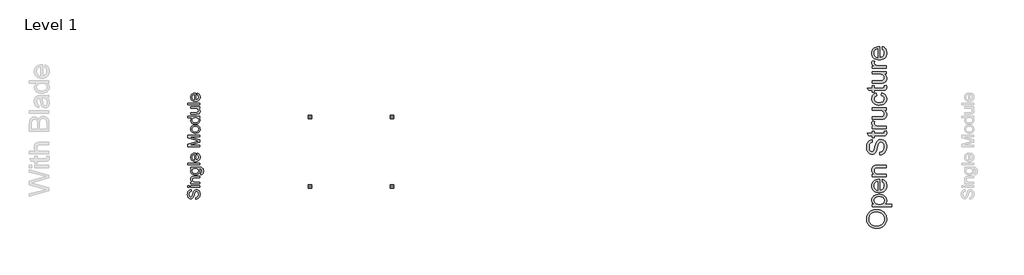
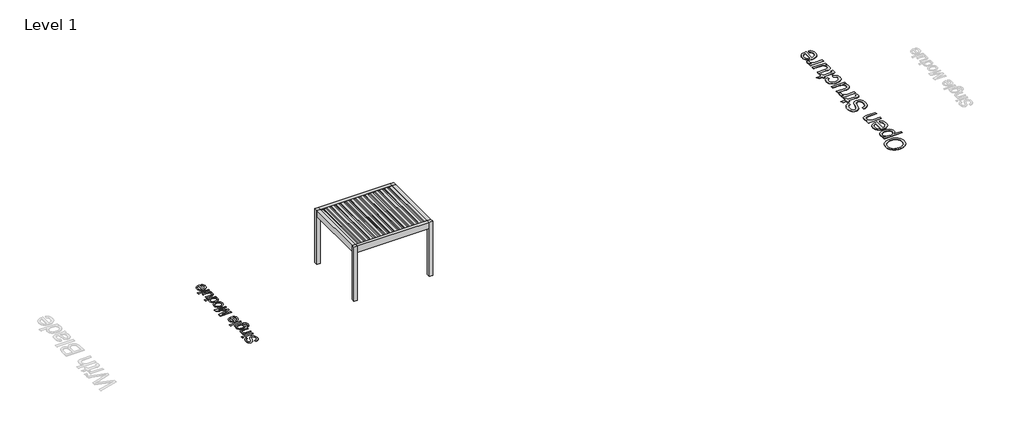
# One storey, part 51 of 80: 3 proxies.
"""IFC4 building model written with IfcOpenShell, lengths in millimetres."""

from ifc_helpers import new_model, si_unit, origin, origin_with_axes, place, context, project, spatial, polyline, outline, extrude, transform, mapped, element, save
from components import generic_models_ee4b6018

model = new_model("IFC4")

# Units and contexts
model_context = context("Model", 3, world=origin())
ifc_project = project(units=[si_unit("LENGTHUNIT", "METRE", prefix="MILLI")], contexts=[model_context])

# Site, building, storey
site = spatial("IfcSite", under=ifc_project)
building = spatial("IfcBuilding", under=site)
storey = spatial("IfcBuildingStorey", under=building, Name="Level 1", Elevation=0.0)

# Proxies
placement = place(None, origin())
generic_models_shape = generic_models_ee4b6018(model_context)
element("IfcBuildingElementProxy", 1, Name="Renson_Amani_Patio_Cover : Renson_Amani_Patio_Cover", ObjectType="Renson_Amani_Patio_Cover : Renson_Amani_Patio_Cover", at=placement, inside=storey, context=model_context, shape_type="MappedRepresentation", body=[
    mapped(generic_models_shape, transform((17203.165057, 67528.5861401, 0.0), x_axis=(1.0, 0.0, 0.0), y_axis=(0.0, 1.0, 0.0), z_axis=(0.0, 0.0, 1.0))),
])
element("IfcBuildingElementProxy", 2, Name="500mm Arial", ObjectType="500mm Arial", at=placement, inside=storey, context=model_context, shape_type="SweptSolid", body=[
    extrude(outline(polyline([(10840.3333758, 65583.2954326), (10840.3333758, 65646.0806264), (10875.1748664, 65653.2849821), (10903.1798833, 65666.3141361), (10925.4060871, 65686.6396164), (10942.9111388, 65715.7329508), (10954.2694954, 65751.294877), (10958.0556142, 65791.0261325), (10955.1892003, 65826.0055789), (10946.5899587, 65856.631755), (10932.9783249, 65881.4484612), (10915.0747345, 65898.9994981), (10894.519328, 65909.4381497), (10872.952246, 65912.9177002), (10851.936987, 65910.3118694), (10833.7728135, 65902.494377), (10818.2757845, 65886.6141376), (10805.2619589, 65859.8200656), (10781.2883155, 65768.4013898), (10765.4234045, 65708.3906393), (10750.3249143, 65669.9929561), (10729.2023564, 65638.7383149), (10703.6039009, 65616.5887531), (10674.0813708, 65603.3909866), (10641.186589, 65598.991731), (10604.4137179, 65604.4333189), (10570.1240503, 65620.7580824), (10554.5963644, 65632.8943561), (10541.0613727, 65647.536826), (10519.9694716, 65684.3403539), (10507.139587, 65728.5168502), (10502.8629589, 65777.4144987), (10507.3388565, 65830.389506), (10520.7665493, 65876.7426374), (10542.8701258, 65914.8184239), (10557.0719037, 65930.1315119), (10573.3736746, 65942.9613965), (10610.3764719, 65960.7730165), (10651.9777942, 65967.8547449), (10651.9777942, 65905.069551), (10631.9435539, 65900.8695649), (10614.5151444, 65893.5425818), (10599.6925657, 65883.0886018), (10587.4758177, 65869.5076248), (10577.9262143, 65852.546732), (10571.105069, 65831.9530045), (10565.6481527, 65779.8670453), (10571.0437553, 65726.5548129), (10577.7882585, 65706.1756832), (10587.2305631, 65689.9812112), (10598.5812555, 65677.6418359), (10611.0509223, 65668.8279964), (10624.6395635, 65663.5396928), (10639.3471791, 65661.7769249), (10663.4741066, 65666.7739886), (10682.8798818, 65681.7651799), (10691.5097803, 65695.5300979), (10700.2316493, 65717.2044788), (10717.9512987, 65784.2816293), (10734.7819, 65853.504758), (10749.466523, 65895.3819918), (10772.2445498, 65931.1738443), (10800.3568656, 65956.1438347), (10833.496902, 65970.8131292), (10871.3580907, 65975.7028941), (10910.0623423, 65970.0773652), (10946.4673314, 65953.2007787), (10977.7986146, 65925.7629132), (11001.2817487, 65888.4535476), (11015.9510432, 65843.5872726), (11020.8408081, 65793.4786791), (11015.5678328, 65731.9657439), (11008.9766137, 65705.2904671), (10999.748907, 65681.3359843), (10987.8693842, 65659.9566754), (10973.322717, 65641.0069206), (10956.1089053, 65624.4867197), (10936.2279492, 65610.3960729), (10914.323642, 65599.0453805), (10891.0397774, 65590.745043), (10866.3763553, 65585.4950603), (10840.3333758, 65583.2954326)])), origin_with_axes(), (0.0, 0.0, 1.0), 5.0),
    extrude(outline(polyline([(11012.9926588, 66062.0325356), (10644.129645, 66062.0325356), (10644.129645, 66124.8177295), (11012.9926588, 66124.8177295), (11012.9926588, 66062.0325356)])), origin_with_axes(), (0.0, 0.0, 1.0), 5.0),
    extrude(outline(polyline([(10573.4963019, 66062.0325356), (10510.7111081, 66062.0325356), (10510.7111081, 66124.8177295), (10573.4963019, 66124.8177295), (10573.4963019, 66062.0325356)])), origin_with_axes(), (0.0, 0.0, 1.0), 5.0),
    extrude(outline(polyline([(11012.9926588, 66218.9955202), (10644.129645, 66218.9955202), (10644.129645, 66281.7807141), (10695.6331243, 66281.7807141), (10669.6667868, 66303.5930507), (10651.1194029, 66329.7893144), (10639.9909726, 66360.3695053), (10636.2814958, 66395.3336233), (10639.270537, 66426.2816961), (10648.2376606, 66454.6239381), (10662.0638923, 66478.2603563), (10679.6302575, 66495.0909576), (10700.8907712, 66506.5106279), (10725.7994479, 66513.914253), (10786.4999771, 66517.225191), (11012.9926588, 66517.225191), (11012.9926588, 66454.4399971), (10794.961263, 66454.4399971), (10762.495677, 66452.631244), (10739.4110818, 66447.2049846), (10722.8717204, 66437.1955286), (10710.0418358, 66421.6371859), (10701.8104762, 66401.6949161), (10699.0666896, 66378.5336788), (10700.6071955, 66359.4689608), (10705.228713, 66341.7608077), (10712.9312423, 66325.4092194), (10723.7147833, 66310.414196), (10738.8056093, 66297.8870477), (10759.4299937, 66288.9390846), (10785.5879364, 66283.5703067), (10817.2794374, 66281.7807141), (11012.9926588, 66281.7807141), (11012.9926588, 66218.9955202)])), origin_with_axes(), (0.0, 0.0, 1.0), 5.0),
    extrude(outline(polyline([(11044.3852558, 66587.8585341), (11052.233405, 66650.6437279), (11071.8537781, 66657.5721721), (11085.3427846, 66670.999865), (11095.8274214, 66697.3953981), (11099.3223004, 66731.9456488), (11095.3675689, 66768.795162), (11083.5033746, 66796.2023707), (11064.4961382, 66815.2096071), (11039.1122805, 66826.8592036), (11012.1036107, 66830.2621121), (10965.9037635, 66831.1511602), (10986.5051552, 66810.2585286), (11001.220435, 66786.9440071), (11010.0496029, 66761.2075959), (11012.9926588, 66733.0492948), (11009.5667578, 66698.6255035), (10999.2890545, 66668.3173921), (10982.1595491, 66642.1249605), (10958.1782416, 66620.0482086), (10929.4068038, 66602.5316607), (10897.906908, 66590.0198408), (10863.678554, 66582.5127488), (10826.7217419, 66580.0103848), (10776.0306687, 66584.5016109), (10729.4169542, 66597.9752889), (10689.915625, 66619.9562381), (10673.9702398, 66633.9587466), (10660.5617075, 66649.9692776), (10649.9391148, 66667.7310802), (10642.3515487, 66686.9874033), (10637.799009, 66707.7382471), (10636.2814958, 66729.9836115), (10639.7150611, 66759.3451933), (10650.0157569, 66785.9936453), (10667.1835834, 66809.9289676), (10691.2185404, 66831.1511602), (10644.129645, 66831.1511602), (10644.129645, 66893.9363541), (10962.5928255, 66893.9363541), (11036.1232393, 66889.6443974), (11063.4729664, 66884.2794517), (11084.5457069, 66876.7685276), (11116.6587394, 66854.588309), (11141.2608478, 66822.383306), (11150.3812556, 66802.6977871), (11156.8958326, 66780.8586258), (11162.1074942, 66730.7193755), (11160.2719163, 66699.9590758), (11154.7651827, 66672.3027804), (11145.5872934, 66647.7504893), (11132.7382483, 66626.3022026), (11116.202719, 66608.9772598), (11095.9653772, 66596.7950009), (11072.0262227, 66589.7554256), (11044.3852558, 66587.8585341)]), holes=[polyline([(10822.4297853, 66642.7955787), (10853.4736608, 66644.4702082), (10880.018646, 66649.4940967), (10902.064741, 66657.8672442), (10919.6119457, 66669.5896507), (10932.9974854, 66683.8412459), (10942.5585852, 66699.8019595), (10948.295245, 66717.4717916), (10950.207465, 66736.8507421), (10948.3067413, 66756.0380874), (10942.6045704, 66773.6236132), (10933.1009522, 66789.6073195), (10919.7958867, 66803.9892062), (10902.4211267, 66815.8725611), (10880.7084247, 66824.3606717), (10854.657781, 66829.4535381), (10824.2691953, 66831.1511602), (10795.1490361, 66829.4037207), (10769.8379884, 66824.1614023), (10748.3360522, 66815.4242049), (10730.6432275, 66803.1921286), (10716.8284922, 66788.4998414), (10706.9608241, 66772.3820115), (10701.0402232, 66754.8386388), (10699.0666896, 66735.8697235), (10701.0095664, 66717.2188727), (10706.8381968, 66700.0165573), (10716.5525807, 66684.2627773), (10730.1527182, 66669.9575327), (10747.5772956, 66658.0741778), (10768.7649993, 66649.5860672), (10793.7158292, 66644.4932008), (10822.4297853, 66642.7955787)])]), origin_with_axes(), (0.0, 0.0, 1.0), 5.0),
    extrude(outline(polyline([(11012.9926588, 66988.1141448), (10510.7111081, 66988.1141448), (10510.7111081, 67050.8993387), (11012.9926588, 67050.8993387), (11012.9926588, 66988.1141448)])), origin_with_axes(), (0.0, 0.0, 1.0), 5.0),
    extrude(outline(polyline([(10903.1185696, 67403.33029), (10910.9667188, 67464.8892106), (10935.6224767, 67455.4507381), (10957.3505071, 67442.7089919), (10976.1508099, 67426.663972), (10992.0233851, 67407.3156783), (11004.6310077, 67384.8633803), (11013.6364523, 67359.5063474), (11019.0397191, 67331.2445795), (11020.8408081, 67300.0780767), (11017.7329716, 67261.1209063), (11008.4094623, 67226.4097072), (10992.8702801, 67195.9444795), (10971.115425, 67169.7252231), (10943.7503696, 67148.6409863), (10911.3805861, 67133.5808171), (10874.0060746, 67124.5447156), (10831.6268352, 67121.5326817), (10787.8105567, 67124.5753724), (10749.1906115, 67133.7034444), (10715.7669994, 67148.9168977), (10687.5397204, 67170.2157324), (10665.1142471, 67196.3660109), (10649.0960519, 67226.1337957), (10639.4851348, 67259.5190868), (10636.2814958, 67296.5218841), (10639.4774706, 67332.3328971), (10649.0653951, 67364.718009), (10665.0452693, 67393.6772198), (10687.4170931, 67419.2105295), (10715.5830584, 67440.0533438), (10748.9453568, 67454.9410683), (10787.5039884, 67463.873703), (10831.2589532, 67466.8512479), (10848.181525, 67466.4833659), (10848.181525, 67184.3178756), (10873.2358217, 67187.9545424), (10895.1784499, 67195.1857229), (10914.0094095, 67206.011417), (10929.7287006, 67220.4316248), (10942.1217253, 67237.6492686), (10950.9738858, 67256.8672707), (10956.2851821, 67278.0856312), (10958.0556142, 67301.30435), (10954.7753331, 67334.7202979), (10944.9344897, 67362.8632706), (10927.9199474, 67385.7332679), (10903.1185696, 67403.33029)]), holes=[polyline([(10785.3963312, 67184.3178756), (10785.3963312, 67404.066054), (10752.2256379, 67395.5741113), (10728.4972492, 67378.927451), (10715.6213794, 67361.8056098), (10706.4243295, 67342.3231925), (10700.9060996, 67320.480199), (10699.0666896, 67296.2766294), (10704.9374731, 67253.9548716), (10712.2759525, 67235.5416113), (10722.5498236, 67218.9600968), (10735.2839056, 67205.0457267), (10750.0030175, 67194.6338999), (10766.7071594, 67187.7246161), (10785.3963312, 67184.3178756)])]), origin_with_axes(), (0.0, 0.0, 1.0), 5.0),
    extrude(outline(polyline([(11012.9926588, 67733.6883217), (10510.7111081, 67733.6883217), (10510.7111081, 67841.723001), (10864.7362148, 67944.4847049), (10938.6804958, 67965.208724), (10858.6048482, 67987.6495257), (10510.7111081, 68088.6944471), (10510.7111081, 68196.7291263), (11012.9926588, 68196.7291263), (11012.9926588, 68133.9439325), (10573.4963019, 68133.9439325), (11012.9926588, 68007.7604081), (11012.9926588, 67922.6570399), (10573.4963019, 67796.4735156), (11012.9926588, 67796.4735156), (11012.9926588, 67733.6883217)])), origin_with_axes(), (0.0, 0.0, 1.0), 5.0),
    extrude(outline(polyline([(10828.5611519, 68283.0587678), (10780.790142, 68286.4540121), (10739.6256796, 68296.6397448), (10705.0677647, 68313.6159661), (10677.1163972, 68337.3826758), (10659.2511278, 68361.3103339), (10646.4902211, 68387.7211955), (10638.8336771, 68416.6152605), (10636.2814958, 68447.992529), (10639.3893322, 68482.6309181), (10648.7128415, 68513.9507051), (10664.2520237, 68541.9518898), (10686.0068788, 68566.6344725), (10713.2416427, 68586.7798438), (10745.2205516, 68601.1693948), (10781.9436053, 68609.8031253), (10823.410804, 68612.6810355), (10886.8397913, 68607.5920012), (10912.8751067, 68601.2307084), (10935.1243032, 68592.3248984), (10954.3423053, 68580.9857024), (10971.2840376, 68567.3242512), (10985.9495001, 68551.3405449), (10998.3386927, 68533.0345836), (11015.2152792, 68492.306981), (11020.8408081, 68447.992529), (11017.7444679, 68412.8483022), (11008.4554476, 68381.2372753), (10992.9737469, 68353.1594484), (10971.299366, 68328.6148216), (10943.8001869, 68308.6840481), (10910.8440915, 68294.4477813), (10872.4310798, 68285.9060212), (10828.5611519, 68283.0587678)]), holes=[polyline([(10828.4385246, 68345.8439617), (10858.892256, 68347.660379), (10885.2609644, 68353.1096311), (10907.5446499, 68362.1917178), (10925.7433123, 68374.9066393), (10939.8799444, 68390.3730115), (10949.9775387, 68407.7094505), (10956.0360954, 68426.9159564), (10958.0556142, 68447.992529), (10956.024599, 68468.9618027), (10949.9315535, 68488.0916665), (10939.7764776, 68505.3821203), (10925.5593713, 68520.8331641), (10907.1806, 68533.5480855), (10884.5405289, 68542.6301723), (10857.639158, 68548.0794243), (10826.4764873, 68549.8958417), (10796.9884461, 68548.067928), (10771.3095164, 68542.584187), (10749.4396982, 68533.4446187), (10731.3789915, 68520.6492231), (10717.2423594, 68505.1406977), (10707.1447651, 68487.8617402), (10701.0862085, 68468.8123507), (10699.0666896, 68447.992529), (10701.0785443, 68426.9159564), (10707.1141083, 68407.7094505), (10717.1733816, 68390.3730115), (10731.2563642, 68374.9066393), (10749.4013772, 68362.1917178), (10771.6467416, 68353.1096311), (10797.9924574, 68347.660379), (10828.4385246, 68345.8439617)])]), origin_with_axes(), (0.0, 0.0, 1.0), 5.0),
    extrude(outline(polyline([(11012.9926588, 68910.9107063), (10953.7636576, 68910.9107063), (10983.1099109, 68892.1257319), (11004.0715205, 68869.3706977), (11016.6484862, 68842.6456035), (11020.8408081, 68811.9504496), (11014.7707551, 68771.3608028), (10996.5605964, 68734.2047213), (10967.4825903, 68702.7508107), (10928.8089956, 68679.2676766), (10882.1033106, 68664.6443673), (10828.9290339, 68659.7699309), (10776.4138791, 68664.2611569), (10728.9877586, 68677.734835), (10707.8575365, 68687.8362614), (10689.3484736, 68700.1756367), (10673.4605699, 68714.7529608), (10660.1938255, 68731.5682336), (10642.2595782, 68769.5367212), (10636.2814958, 68811.7051949), (10640.558124, 68842.4233415), (10653.3880085, 68869.5852955), (10673.0543669, 68892.608577), (10697.8404163, 68910.9107063), (10510.7111081, 68910.9107063), (10510.7111081, 68973.6959001), (11012.9926588, 68973.6959001), (11012.9926588, 68910.9107063)]), holes=[polyline([(10828.6837793, 68722.5551247), (10859.1298465, 68724.3255568), (10885.4755623, 68729.6368531), (10907.7209267, 68738.4890137), (10925.8659396, 68750.8820384), (10939.9489223, 68765.6816245), (10950.0081956, 68781.7534691), (10956.0437596, 68799.0975724), (10958.0556142, 68817.7139342), (10956.1357301, 68836.4184344), (10950.3760776, 68853.6590708), (10940.7766568, 68869.4358434), (10927.3374676, 68883.7487523), (10909.9512112, 68895.6321072), (10888.5105887, 68904.1202178), (10863.0156, 68909.2130841), (10833.4662452, 68910.9107063), (10801.069637, 68909.1824273), (10773.2868821, 68903.9975904), (10750.1179807, 68895.3561957), (10731.5629325, 68883.258243), (10717.3458263, 68868.6311016), (10707.1907503, 68852.4021406), (10701.0977048, 68834.5713602), (10699.0666896, 68815.1387602), (10701.0172306, 68796.1545164), (10706.8688536, 68778.8104132), (10716.6215586, 68763.1064505), (10730.2753455, 68749.0426284), (10748.1291186, 68737.4543455), (10770.4817819, 68729.1770007), (10797.3333355, 68724.2105937), (10828.6837793, 68722.5551247)])]), origin_with_axes(), (0.0, 0.0, 1.0), 5.0),
    extrude(outline(polyline([(11012.9926588, 69303.3181678), (10949.5943283, 69303.3181678), (10980.7646632, 69280.6014546), (11003.0291881, 69254.1446078), (11016.3879031, 69223.9476273), (11020.8408081, 69190.0105133), (11017.7138111, 69159.4303224), (11008.3328202, 69130.9654531), (10994.2306771, 69107.0837802), (10976.9402233, 69090.2531789), (10955.9402927, 69078.9254792), (10930.7097192, 69071.5525108), (10872.3391093, 69067.8736909), (10644.129645, 69067.8736909), (10644.129645, 69130.6588847), (10842.7859224, 69130.6588847), (10906.7973896, 69134.460332), (10928.1498737, 69143.6113966), (10944.3826667, 69159.2923667), (10954.6373773, 69180.4609098), (10958.0556142, 69206.0746937), (10954.5607353, 69233.1600056), (10944.0760984, 69258.497878), (10927.5673939, 69279.3905097), (10906.0003119, 69293.1400993), (10876.4624534, 69300.7736507), (10836.0414192, 69303.3181678), (10644.129645, 69303.3181678), (10644.129645, 69366.1033616), (11012.9926588, 69366.1033616), (11012.9926588, 69303.3181678)])), origin_with_axes(), (0.0, 0.0, 1.0), 5.0),
    extrude(outline(polyline([(11012.9926588, 69452.4330032), (10510.7111081, 69452.4330032), (10510.7111081, 69515.218197), (11012.9926588, 69515.218197), (11012.9926588, 69452.4330032)])), origin_with_axes(), (0.0, 0.0, 1.0), 5.0),
    extrude(outline(polyline([(10903.1185696, 69867.6491484), (10910.9667188, 69929.2080689), (10935.6224767, 69919.7695965), (10957.3505071, 69907.0278503), (10976.1508099, 69890.9828304), (10992.0233851, 69871.6345367), (11004.6310077, 69849.1822387), (11013.6364523, 69823.8252057), (11019.0397191, 69795.5634379), (11020.8408081, 69764.3969351), (11017.7329716, 69725.4397646), (11008.4094623, 69690.7285655), (10992.8702801, 69660.2633378), (10971.115425, 69634.0440815), (10943.7503696, 69612.9598446), (10911.3805861, 69597.8996754), (10874.0060746, 69588.8635739), (10831.6268352, 69585.8515401), (10787.8105567, 69588.8942308), (10749.1906115, 69598.0223028), (10715.7669994, 69613.2357561), (10687.5397204, 69634.5345908), (10665.1142471, 69660.6848693), (10649.0960519, 69690.4526541), (10639.4851348, 69723.8379451), (10636.2814958, 69760.8407425), (10639.4774706, 69796.6517554), (10649.0653951, 69829.0368673), (10665.0452693, 69857.9960781), (10687.4170931, 69883.5293879), (10715.5830584, 69904.3722021), (10748.9453568, 69919.2599266), (10787.5039884, 69928.1925613), (10831.2589532, 69931.1701062), (10848.181525, 69930.8022242), (10848.181525, 69648.6367339), (10873.2358217, 69652.2734007), (10895.1784499, 69659.5045812), (10914.0094095, 69670.3302753), (10929.7287006, 69684.7504831), (10942.1217253, 69701.9681269), (10950.9738858, 69721.1861291), (10956.2851821, 69742.4044896), (10958.0556142, 69765.6232084), (10954.7753331, 69799.0391563), (10944.9344897, 69827.1821289), (10927.9199474, 69850.0521263), (10903.1185696, 69867.6491484)]), holes=[polyline([(10785.3963312, 69648.6367339), (10785.3963312, 69868.3849124), (10752.2256379, 69859.8929697), (10728.4972492, 69843.2463094), (10715.6213794, 69826.1244682), (10706.4243295, 69806.6420509), (10700.9060996, 69784.7990574), (10699.0666896, 69760.5954878), (10704.9374731, 69718.2737299), (10712.2759525, 69699.8604697), (10722.5498236, 69683.2789551), (10735.2839056, 69669.3645851), (10750.0030175, 69658.9527582), (10766.7071594, 69652.0434745), (10785.3963312, 69648.6367339)])]), origin_with_axes(), (0.0, 0.0, 1.0), 5.0),
])
element("IfcBuildingElementProxy", 3, Name="800mm Arial", ObjectType="800mm Arial", at=placement, inside=storey, context=model_context, shape_type="SweptSolid", body=[
    extrude(outline(polyline([(38742.8155936, 64389.7876233), (38694.5889233, 64391.4526098), (38649.0518466, 64396.4475694), (38606.2043636, 64404.772502), (38566.0464741, 64416.4274078), (38528.5781783, 64431.4122865), (38493.7994761, 64449.7271384), (38461.7103676, 64471.3719633), (38432.3108527, 64496.3467613), (38406.0095544, 64523.9532138), (38383.215096, 64553.4930023), (38363.9274773, 64584.9661268), (38348.1466983, 64618.3725873), (38335.8727591, 64653.7123839), (38327.1056597, 64690.9855164), (38321.8454001, 64730.191985), (38320.0919802, 64771.3317896), (38323.3853602, 64825.1114644), (38333.2655, 64876.1832491), (38349.7323998, 64924.5471436), (38372.7860594, 64970.2031479), (38401.7312099, 65011.8705031), (38435.8725821, 65048.2684505), (38475.210176, 65079.3969899), (38519.7439915, 65105.2561213), (38568.4616194, 65125.5774954), (38620.3506502, 65140.0927626), (38675.4110839, 65148.8019229), (38733.6429206, 65151.7049764), (38792.6432125, 65148.6494516), (38848.4477062, 65139.4828774), (38901.0564015, 65124.2052538), (38950.4692985, 65102.8165806), (38995.3812429, 65075.8230627), (39034.4870804, 65043.7309047), (39067.786811, 65006.5401067), (39095.2804347, 64964.2506686), (39116.7971838, 64918.5275769), (39132.1662902, 64871.0358182), (39141.3877541, 64821.7753925), (39144.4615754, 64770.7462998), (39141.0645149, 64716.0274018), (39130.8733336, 64664.2847434), (39113.8880315, 64615.5183247), (39090.1086085, 64569.7281457), (39060.4559912, 64528.1095812), (39025.8511063, 64491.8580064), (38986.2939537, 64460.973421), (38941.7845336, 64435.4558253), (38894.1098093, 64415.4759869), (38845.0567446, 64401.2046738), (38794.6253394, 64392.6418859), (38742.8155936, 64389.7876233)]), holes=[polyline([(38743.7914099, 64489.7112105), (38810.0371378, 64494.7061701), (38868.8422665, 64509.6910489), (38920.206796, 64534.6658469), (38964.1307264, 64569.6305641), (38999.3089034, 64612.133462), (39024.4361727, 64659.7228023), (39039.5125342, 64712.398585), (39044.5379881, 64770.16081), (39039.4637434, 64828.9110491), (39024.2410094, 64882.2089146), (38998.8697861, 64930.0544067), (38963.3500734, 64972.4475253), (38941.9888451, 64991.0413996), (38918.4991175, 65007.1560907), (38865.1341646, 65031.9479231), (38803.2552146, 65046.8230226), (38732.8622676, 65051.7813891), (38687.133077, 65049.6589887), (38644.4045216, 65043.2917874), (38604.6766012, 65032.6797853), (38567.9493159, 65017.8229824), (38534.7044749, 64998.8860477), (38505.4238876, 64976.0336502), (38480.1075539, 64949.2657898), (38458.7554739, 64918.5824666), (38441.8067648, 64884.9351014), (38429.7005441, 64849.2751151), (38422.4368116, 64811.6025078), (38420.0155675, 64771.9172793), (38424.6811891, 64716.1615765), (38438.6780539, 64664.4311159), (38462.0061619, 64616.7258974), (38494.6655131, 64573.045921), (38514.8877808, 64553.5143483), (38538.2296112, 64536.5869852), (38564.6910043, 64522.2638318), (38594.2719601, 64510.5448882), (38626.9724785, 64501.4301542), (38662.7925596, 64494.91963), (38743.7914099, 64489.7112105)])]), origin_with_axes(), (0.0, 0.0, 1.0), 5.0),
    extrude(outline(polyline([(39356.7991984, 65276.6094605), (38544.9200516, 65276.6094605), (38544.9200516, 65376.5330478), (38642.8920063, 65376.5330478), (38594.564705, 65409.1253116), (38575.5789794, 65426.8851679), (38560.045204, 65445.6208405), (38547.9633786, 65465.8690284), (38539.3335034, 65488.1664304), (38534.1555783, 65512.5130467), (38532.4296032, 65538.9088771), (38534.8447485, 65573.7577161), (38542.0901844, 65606.4841547), (38554.1659109, 65637.0881928), (38571.071928, 65665.5698305), (38592.3691183, 65691.306985), (38617.6183646, 65713.6775733), (38646.8196669, 65732.6815953), (38679.9730251, 65748.3190513), (38715.9440528, 65760.5289525), (38753.5983636, 65769.2503105), (38792.9359574, 65774.4831253), (38833.9568344, 65776.2273969), (38877.8136774, 65774.2574678), (38919.4139453, 65768.3476805), (38958.757638, 65758.4980349), (38995.8447556, 65744.708531), (39029.7055806, 65727.1682334), (39059.3703956, 65706.0662063), (39084.8392005, 65681.4024497), (39106.1119955, 65653.1769638), (39122.8899367, 65622.7741877), (39134.8741804, 65591.5785609), (39142.0647266, 65559.5900834), (39144.4615754, 65526.8087552), (39142.8575774, 65503.2244955), (39138.0455833, 65480.8722037), (39130.0255932, 65459.7518801), (39118.7976071, 65439.8635245), (39089.7426773, 65404.7585337), (39053.9058244, 65376.5330478), (39356.7991984, 65376.5330478), (39356.7991984, 65276.6094605)]), holes=[polyline([(38843.1295074, 65376.5330478), (38891.286041, 65379.2348391), (38932.7094421, 65387.3402131), (38967.399711, 65400.8491697), (38995.3568475, 65419.7617091), (39016.8735965, 65442.5287227), (39032.2427029, 65467.6011023), (39041.4641668, 65494.9788479), (39044.5379881, 65524.6619594), (39041.3543875, 65554.7719906), (39031.8035856, 65582.649842), (39015.8855825, 65608.2955136), (38993.6003781, 65631.7090056), (38964.6308323, 65651.2192323), (38928.6598046, 65665.1551086), (38885.687295, 65673.5166344), (38835.7133037, 65676.3038096), (38787.9714921, 65673.5837218), (38746.6212771, 65665.4234581), (38711.6626588, 65651.8230187), (38683.0956372, 65632.7824035), (38660.8958167, 65609.9605002), (38645.0388022, 65585.0161965), (38635.5245934, 65557.9494923), (38632.3531905, 65528.7603878), (38635.7258555, 65499.662766), (38645.8438506, 65472.2850205), (38662.7071757, 65446.6271511), (38686.3158309, 65422.6891579), (38716.3526758, 65402.4958597), (38752.5005702, 65388.0720753), (38794.7595141, 65379.4178047), (38843.1295074, 65376.5330478)])]), origin_with_axes(), (0.0, 0.0, 1.0), 5.0),
    extrude(outline(polyline([(38957.1048492, 66299.6552507), (38969.5952976, 66397.6272054), (39008.8353099, 66382.6057335), (39043.4157994, 66362.3270514), (39073.3367661, 66336.7911591), (39098.5982101, 66305.9980565), (39118.6634324, 66270.264884), (39132.9957341, 66229.9087819), (39141.595115, 66184.9297502), (39144.4615754, 66135.3277888), (39139.5154066, 66073.3268617), (39124.6769002, 66018.0834625), (39099.9460563, 65969.597591), (39065.3228749, 65927.8692472), (39021.7709744, 65894.3133648), (38970.2539736, 65870.3448774), (38910.7718723, 65855.9637849), (38843.3246707, 65851.1700874), (38773.5903996, 65856.0125757), (38712.1261716, 65870.5400406), (38658.9319865, 65894.7524821), (38635.4361601, 65910.4905691), (38614.0078444, 65928.6499002), (38578.3173639, 65970.2684646), (38552.8241635, 66017.6443451), (38537.5282433, 66070.7775417), (38532.4296032, 66129.6680543), (38537.5160456, 66186.6618241), (38552.7753727, 66238.2032203), (38578.2075845, 66284.2922431), (38613.8126811, 66324.9288924), (38658.6392416, 66358.1005471), (38711.735845, 66381.7945862), (38773.1024915, 66396.0110097), (38842.7391809, 66400.7498175), (38869.6717103, 66400.1643277), (38869.6717103, 65951.0936747), (38909.5460031, 65956.881485), (38944.4680283, 65968.3900183), (38974.4377859, 65985.6192745), (38999.4552758, 66008.5692537), (39019.1789624, 66035.9713947), (39033.26731, 66066.5571363), (39041.7203186, 66100.3264785), (39044.5379881, 66137.2794213), (39039.317371, 66190.4614087), (39023.6555196, 66235.2513761), (39011.6651771, 66254.4993522), (38996.5766178, 66271.6493234), (38978.3898419, 66286.7012895), (38957.1048492, 66299.6552507)]), holes=[polyline([(38769.748123, 65951.0936747), (38769.748123, 66300.8262302), (38741.4738462, 66295.690997), (38716.9564622, 66287.3111747), (38696.1959708, 66275.6867633), (38679.192372, 66260.8177627), (38658.7002301, 66233.568093), (38644.0629859, 66202.5615306), (38635.2806393, 66167.7980756), (38632.3531905, 66129.2777278), (38634.6890507, 66094.1422428), (38641.6966314, 66061.9220089), (38653.3759325, 66032.6170262), (38669.7269541, 66006.2272946), (38689.9934385, 65984.0823639), (38713.4191281, 65967.5117836), (38740.004023, 65956.5155539), (38769.748123, 65951.0936747)])]), origin_with_axes(), (0.0, 0.0, 1.0), 5.0),
    extrude(outline(polyline([(39131.971127, 66500.6734048), (38544.9200516, 66500.6734048), (38544.9200516, 66600.5969921), (38626.8886193, 66600.5969921), (38604.7497874, 66617.0821884), (38585.5627998, 66635.3116563), (38569.3276564, 66655.2853959), (38556.0443572, 66677.003407), (38545.7129023, 66700.4656897), (38538.3332917, 66725.6722441), (38532.4296032, 66781.3181676), (38537.1867076, 66830.5724944), (38551.4580207, 66875.679602), (38573.4626779, 66913.2973197), (38601.4198144, 66940.0834767), (38635.2562439, 66958.2580549), (38674.8987804, 66970.0410365), (38712.809243, 66973.9930925), (38771.5045923, 66975.3104445), (39131.971127, 66975.3104445), (39131.971127, 66875.3868572), (38784.970857, 66875.3868572), (38733.3013849, 66872.5081991), (38696.5619019, 66863.872225), (38670.2392576, 66847.9420242), (38649.8203019, 66823.1806861), (38636.7199684, 66791.4422615), (38632.3531905, 66754.5808014), (38634.8049289, 66724.2390139), (38642.1601441, 66696.0562199), (38654.4188362, 66670.0324194), (38671.581005, 66646.1676125), (38695.5982833, 66626.2304661), (38728.4223035, 66611.9896472), (38770.0530656, 66603.4451559), (38820.4905697, 66600.5969921), (39131.971127, 66600.5969921), (39131.971127, 66500.6734048)])), origin_with_axes(), (0.0, 0.0, 1.0), 5.0),
    extrude(outline(polyline([(38857.1812619, 67399.9856904), (38857.1812619, 67499.9092777), (38912.6320221, 67511.3751191), (38936.2772704, 67520.5843852), (38957.2024308, 67532.111215), (38975.8283241, 67546.5410983), (38992.5757711, 67564.4595248), (39007.4447717, 67585.8664945), (39020.4353259, 67610.7620074), (39030.9802406, 67638.2312357), (39038.5123225, 67667.3593518), (39044.5379881, 67730.5922468), (39039.976047, 67786.2625657), (39026.2902236, 67835.004589), (39004.6271021, 67874.5007531), (38991.2340237, 67889.9125515), (38976.1332667, 67902.4334941), (38943.4190258, 67919.0467663), (38909.0946881, 67924.5845237), (38875.648585, 67920.4373045), (38846.7400277, 67907.9956469), (38833.9141424, 67897.5300173), (38822.0762712, 67882.7220052), (38801.3645706, 67840.0788337), (38785.6783238, 67787.3115682), (38763.2101539, 67694.584626), (38737.9609076, 67599.0766074), (38713.9314317, 67537.9661127), (38698.0134286, 67511.2836363), (38680.3145608, 67488.2238778), (38660.8348282, 67468.7868372), (38639.574231, 67452.9725146), (38616.7523277, 67440.7199214), (38592.588677, 67431.9680691), (38567.0832789, 67426.7169577), (38540.2361335, 67424.9665873), (38510.4798357, 67427.1316796), (38481.7115519, 67433.6269568), (38453.9312822, 67444.4524187), (38427.1390264, 67459.6080653), (38402.426479, 67478.9231288), (38380.8853346, 67502.2268414), (38362.5155931, 67529.5192031), (38347.3172545, 67560.8002137), (38335.406197, 67595.0147721), (38326.8982988, 67631.1077769), (38321.7935598, 67669.079228), (38320.0919802, 67708.9291254), (38321.8728449, 67752.4017407), (38327.2154391, 67793.2396522), (38336.1197626, 67831.4428596), (38348.5858156, 67867.0113631), (38364.5038187, 67899.2864866), (38383.7639926, 67927.6095542), (38406.3663373, 67951.9805659), (38432.3108527, 67972.3995216), (38460.8412812, 67988.7078512), (38491.2013653, 68000.7469846), (38523.3911049, 68008.5169217), (38557.4105, 68012.0176626), (38557.4105, 67912.0940753), (38525.525703, 67905.4097338), (38497.7881252, 67893.7487292), (38474.1977666, 67877.1110616), (38454.7546271, 67855.496731), (38439.5562885, 67828.5032131), (38428.7003324, 67795.7279837), (38422.1867587, 67757.1710428), (38420.0155675, 67712.8323905), (38422.1623633, 67667.0788046), (38428.6027508, 67627.9851648), (38439.3367299, 67595.5514711), (38454.3643006, 67569.7777235), (38472.4290996, 67550.1394209), (38492.2747632, 67536.1120618), (38513.9012915, 67527.6956464), (38537.3086846, 67524.8901746), (38557.4470931, 67526.8784002), (38575.7070553, 67532.8430773), (38592.0885712, 67542.7842056), (38606.5916406, 67556.7017854), (38620.3262548, 67578.6088609), (38634.2072414, 67613.1039665), (38662.408332, 67719.8582677), (38689.1944889, 67830.027926), (38712.5652889, 67896.6761781), (38729.6298761, 67927.3107105), (38748.8168638, 67953.6394535), (38770.1262518, 67975.6624073), (38793.5580403, 67993.3795716), (38818.9902522, 68006.9983076), (38846.3009104, 68016.7259762), (38875.4900149, 68022.5625773), (38906.5575658, 68024.508111), (38937.8141811, 68022.2698324), (38968.1559686, 68015.5549966), (38997.5829284, 68004.3636037), (39026.0950603, 67988.6956535), (39052.5884724, 67968.8255944), (39075.9592724, 67945.0278748), (39096.2074602, 67917.3024947), (39113.333036, 67885.6494541), (39126.951772, 67850.9896795), (39136.6794405, 67814.2440976), (39142.5160417, 67775.4127085), (39144.4615754, 67734.495512), (39142.3635704, 67683.3810353), (39136.0695553, 67636.5967435), (39125.5795303, 67594.1426363), (39110.8934953, 67556.018714), (39091.9870548, 67521.99322), (39068.8358135, 67491.834398), (39041.4397714, 67465.5422481), (39009.7989284, 67443.1167701), (38974.9378918, 67425.0519712), (38937.8812684, 67411.8418583), (38898.6290585, 67403.4864314), (38857.1812619, 67399.9856904)])), origin_with_axes(), (0.0, 0.0, 1.0), 5.0),
    extrude(outline(polyline([(39048.6364165, 68374.2406666), (39134.8985758, 68386.731115), (39142.0708255, 68347.1617647), (39144.4615754, 68311.9835877), (39140.3143562, 68264.0222175), (39127.8726986, 68228.2585507), (39108.6979086, 68202.984909), (39084.3512924, 68186.4936139), (39042.5375647, 68177.4185224), (38970.9614404, 68174.393492), (38644.8436389, 68174.393492), (38644.8436389, 68099.4508015), (38544.9200516, 68099.4508015), (38544.9200516, 68174.393492), (38402.2557112, 68174.393492), (38343.511571, 68274.3170793), (38544.9200516, 68274.3170793), (38544.9200516, 68374.2406666), (38644.8436389, 68374.2406666), (38644.8436389, 68274.3170793), (38968.0339916, 68274.3170793), (39000.9190003, 68275.6344312), (39019.5570913, 68279.5864872), (39029.8763484, 68286.4903874), (39037.8048557, 68296.6632721), (39042.854705, 68311.0809577), (39044.5379881, 68330.7192604), (39048.6364165, 68374.2406666)])), origin_with_axes(), (0.0, 0.0, 1.0), 5.0),
    extrude(outline(polyline([(39131.971127, 68474.1642538), (38544.9200516, 68474.1642538), (38544.9200516, 68561.5973927), (38631.7677007, 68561.5973927), (38581.4155806, 68593.8969117), (38563.9972599, 68609.0952503), (38551.7507656, 68623.6593083), (38537.2598938, 68653.5192865), (38532.4296032, 68686.1115503), (38534.3568404, 68710.8972839), (38540.1385518, 68735.8781807), (38549.7747376, 68761.0542408), (38563.2653977, 68786.4254641), (38652.8453324, 68753.0525473), (38637.476226, 68717.9231611), (38632.3531905, 68682.793775), (38637.2810627, 68652.9581921), (38652.0646794, 68626.2940122), (38675.5818518, 68604.7528678), (38706.7103912, 68590.2863914), (38762.5270825, 68578.1374787), (38823.4180185, 68574.0878411), (39131.971127, 68574.0878411), (39131.971127, 68474.1642538)])), origin_with_axes(), (0.0, 0.0, 1.0), 5.0),
    extrude(outline(polyline([(39131.971127, 69223.5911585), (39031.0717234, 69223.5911585), (39057.6474699, 69206.2582218), (39080.6797836, 69187.4371653), (39100.1686644, 69167.1279889), (39116.1141124, 69145.3306927), (39128.5161274, 69122.0452767), (39137.3747096, 69097.2717408), (39142.6898589, 69071.0100851), (39144.4615754, 69043.2603096), (39139.4849123, 68994.5914725), (39124.5549232, 68949.2892016), (39102.1111487, 68911.2811574), (39074.5931296, 68884.4950005), (39041.1714219, 68866.4667947), (39001.0165819, 68854.7326039), (38963.1549101, 68850.3414306), (38908.1188718, 68848.8777062), (38544.9200516, 68848.8777062), (38544.9200516, 68948.8012935), (38861.084527, 68948.8012935), (38924.3174221, 68950.3138087), (38962.9597469, 68954.8513544), (38980.9696561, 68960.834328), (38996.9425489, 68969.4154124), (39010.8784252, 68980.5946077), (39022.777285, 68994.3719139), (39032.2975926, 69010.3326089), (39039.0978123, 69028.061971), (39044.5379881, 69068.8266962), (39038.9758353, 69111.9333805), (39022.2893768, 69152.2589883), (39010.1587607, 69170.3054907), (38996.0155234, 69185.5099281), (38979.8596651, 69197.8723007), (38961.6911857, 69207.3926083), (38914.6812363, 69219.541521), (38850.3505479, 69223.5911585), (38544.9200516, 69223.5911585), (38544.9200516, 69323.5147458), (39131.971127, 69323.5147458), (39131.971127, 69223.5911585)])), origin_with_axes(), (0.0, 0.0, 1.0), 5.0),
    extrude(outline(polyline([(38919.633504, 69835.6231307), (38932.1239524, 69935.546718), (38979.2741754, 69924.6785642), (39020.9964203, 69907.6871631), (39057.2906871, 69884.572515), (39088.1569759, 69855.3346196), (39112.7902382, 69821.2054451), (39130.3854255, 69783.4169596), (39140.9425379, 69741.969163), (39144.4615754, 69696.8620554), (39139.5519997, 69640.8197065), (39124.8232727, 69590.5712669), (39100.2753943, 69546.1167363), (39065.9083647, 69507.456115), (39022.3686619, 69476.1629066), (38970.3027644, 69453.8106149), (38909.7106721, 69440.3992399), (38840.5923851, 69435.9287815), (38794.6497348, 69437.8377221), (38751.6711264, 69443.5645439), (38711.65656, 69453.109247), (38674.6060355, 69466.4718312), (38641.2636129, 69483.7437794), (38612.3733521, 69505.0165743), (38587.9352531, 69530.290216), (38567.9493159, 69559.5647045), (38552.4094416, 69591.5165889), (38541.3095314, 69624.8224184), (38534.6495852, 69659.4821929), (38532.4296032, 69695.4959126), (38535.4790291, 69739.8284661), (38544.6273067, 69779.9284164), (38559.8744361, 69815.7957636), (38581.2204173, 69847.4305077), (38608.1773421, 69874.2959497), (38640.2573024, 69895.8553907), (38677.4602981, 69912.1088307), (38719.7863294, 69923.0562696), (38732.2767778, 69823.1326823), (38708.9364721, 69815.3322509), (38688.6821854, 69805.0068949), (38671.5139177, 69792.1566142), (38657.4316689, 69776.7814089), (38646.4598346, 69759.2716055), (38638.6228101, 69740.0175305), (38633.9205954, 69719.0191838), (38632.3531905, 69696.2765656), (38635.4392095, 69662.3242578), (38644.6972665, 69631.7019231), (38660.1273614, 69604.4095615), (38681.7294944, 69580.4471729), (38710.0037711, 69560.9369461), (38745.4502976, 69547.0010699), (38788.0690737, 69538.6395441), (38837.8600995, 69535.8523688), (38888.4012841, 69538.5785556), (38931.5140672, 69546.7571158), (38967.1984489, 69560.3880495), (38995.4544291, 69579.4713566), (39016.9284861, 69602.9580348), (39032.2670983, 69629.7990814), (39041.4702656, 69659.9944965), (39044.5379881, 69693.54428), (39042.6229486, 69720.5804899), (39036.8778303, 69745.2869384), (39027.302633, 69767.6636255), (39013.8973568, 69787.7105513), (38996.5156293, 69804.8666213), (38975.011078, 69818.5707412), (38949.3837029, 69828.822911), (38919.633504, 69835.6231307)])), origin_with_axes(), (0.0, 0.0, 1.0), 5.0),
    extrude(outline(polyline([(39048.6364165, 70235.3174799), (39134.8985758, 70247.8079283), (39142.0708255, 70208.238578), (39144.4615754, 70173.0604011), (39140.3143562, 70125.0990308), (39127.8726986, 70089.3353641), (39108.6979086, 70064.0617224), (39084.3512924, 70047.5704272), (39042.5375647, 70038.4953358), (38970.9614404, 70035.4703053), (38644.8436389, 70035.4703053), (38644.8436389, 69960.5276148), (38544.9200516, 69960.5276148), (38544.9200516, 70035.4703053), (38402.2557112, 70035.4703053), (38343.511571, 70135.3938926), (38544.9200516, 70135.3938926), (38544.9200516, 70235.3174799), (38644.8436389, 70235.3174799), (38644.8436389, 70135.3938926), (38968.0339916, 70135.3938926), (39000.9190003, 70136.7112446), (39019.5570913, 70140.6633005), (39029.8763484, 70147.5672007), (39037.8048557, 70157.7400854), (39042.854705, 70172.157771), (39044.5379881, 70191.7960737), (39048.6364165, 70235.3174799)])), origin_with_axes(), (0.0, 0.0, 1.0), 5.0),
    extrude(outline(polyline([(39131.971127, 70709.9545195), (39031.0717234, 70709.9545195), (39057.6474699, 70692.6215828), (39080.6797836, 70673.8005263), (39100.1686644, 70653.4913499), (39116.1141124, 70631.6940537), (39128.5161274, 70608.4086377), (39137.3747096, 70583.6351018), (39142.6898589, 70557.3734461), (39144.4615754, 70529.6236706), (39139.4849123, 70480.9548335), (39124.5549232, 70435.6525626), (39102.1111487, 70397.6445184), (39074.5931296, 70370.8583615), (39041.1714219, 70352.8301557), (39001.0165819, 70341.0959649), (38963.1549101, 70336.7047916), (38908.1188718, 70335.2410672), (38544.9200516, 70335.2410672), (38544.9200516, 70435.1646545), (38861.084527, 70435.1646545), (38924.3174221, 70436.6771697), (38962.9597469, 70441.2147154), (38980.9696561, 70447.197689), (38996.9425489, 70455.7787734), (39010.8784252, 70466.9579687), (39022.777285, 70480.7352748), (39032.2975926, 70496.6959699), (39039.0978123, 70514.425332), (39044.5379881, 70555.1900572), (39038.9758353, 70598.2967414), (39022.2893768, 70638.6223493), (39010.1587607, 70656.6688517), (38996.0155234, 70671.8732891), (38979.8596651, 70684.2356616), (38961.6911857, 70693.7559692), (38914.6812363, 70705.9048819), (38850.3505479, 70709.9545195), (38544.9200516, 70709.9545195), (38544.9200516, 70809.8781068), (39131.971127, 70809.8781068), (39131.971127, 70709.9545195)])), origin_with_axes(), (0.0, 0.0, 1.0), 5.0),
    extrude(outline(polyline([(39131.971127, 70947.2730393), (38544.9200516, 70947.2730393), (38544.9200516, 71034.7061782), (38631.7677007, 71034.7061782), (38581.4155806, 71067.0056972), (38563.9972599, 71082.2040358), (38551.7507656, 71096.7680938), (38537.2598938, 71126.628072), (38532.4296032, 71159.2203358), (38534.3568404, 71184.0060694), (38540.1385518, 71208.9869662), (38549.7747376, 71234.1630263), (38563.2653977, 71259.5342496), (38652.8453324, 71226.1613328), (38637.476226, 71191.0319466), (38632.3531905, 71155.9025605), (38637.2810627, 71126.0669776), (38652.0646794, 71099.4027977), (38675.5818518, 71077.8616533), (38706.7103912, 71063.3951769), (38762.5270825, 71051.2462642), (38823.4180185, 71047.1966266), (39131.971127, 71047.1966266), (39131.971127, 70947.2730393)])), origin_with_axes(), (0.0, 0.0, 1.0), 5.0),
    extrude(outline(polyline([(38957.1048492, 71733.0003097), (38969.5952976, 71830.9722645), (39008.8353099, 71815.9507926), (39043.4157994, 71795.6721105), (39073.3367661, 71770.1362181), (39098.5982101, 71739.3431156), (39118.6634324, 71703.6099431), (39132.9957341, 71663.253841), (39141.595115, 71618.2748092), (39144.4615754, 71568.6728478), (39139.5154066, 71506.6719208), (39124.6769002, 71451.4285215), (39099.9460563, 71402.94265), (39065.3228749, 71361.2143062), (39021.7709744, 71327.6584238), (38970.2539736, 71303.6899364), (38910.7718723, 71289.3088439), (38843.3246707, 71284.5151465), (38773.5903996, 71289.3576348), (38712.1261716, 71303.8850997), (38658.9319865, 71328.0975412), (38635.4361601, 71343.8356281), (38614.0078444, 71361.9949593), (38578.3173639, 71403.6135237), (38552.8241635, 71450.9894042), (38537.5282433, 71504.1226008), (38532.4296032, 71563.0131134), (38537.5160456, 71620.0068831), (38552.7753727, 71671.5482794), (38578.2075845, 71717.6373021), (38613.8126811, 71758.2739514), (38658.6392416, 71791.4456062), (38711.735845, 71815.1396453), (38773.1024915, 71829.3560687), (38842.7391809, 71834.0948766), (38869.6717103, 71833.5093868), (38869.6717103, 71384.4387337), (38909.5460031, 71390.2265441), (38944.4680283, 71401.7350773), (38974.4377859, 71418.9643336), (38999.4552758, 71441.9143128), (39019.1789624, 71469.3164537), (39033.26731, 71499.9021953), (39041.7203186, 71533.6715375), (39044.5379881, 71570.6244804), (39039.317371, 71623.8064678), (39023.6555196, 71668.5964351), (39011.6651771, 71687.8444113), (38996.5766178, 71704.9943824), (38978.3898419, 71720.0463486), (38957.1048492, 71733.0003097)]), holes=[polyline([(38769.748123, 71384.4387337), (38769.748123, 71734.1712893), (38741.4738462, 71729.0360561), (38716.9564622, 71720.6562338), (38696.1959708, 71709.0318223), (38679.192372, 71694.1628217), (38658.7002301, 71666.913152), (38644.0629859, 71635.9065897), (38635.2806393, 71601.1431346), (38632.3531905, 71562.6227869), (38634.6890507, 71527.4873019), (38641.6966314, 71495.267068), (38653.3759325, 71465.9620853), (38669.7269541, 71439.5723537), (38689.9934385, 71417.4274229), (38713.4191281, 71400.8568427), (38740.004023, 71389.860613), (38769.748123, 71384.4387337)])]), origin_with_axes(), (0.0, 0.0, 1.0), 5.0),
])

save(model, "model.ifc")
